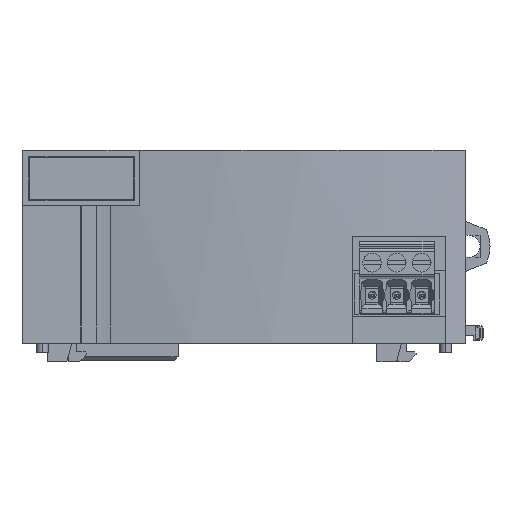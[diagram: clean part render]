
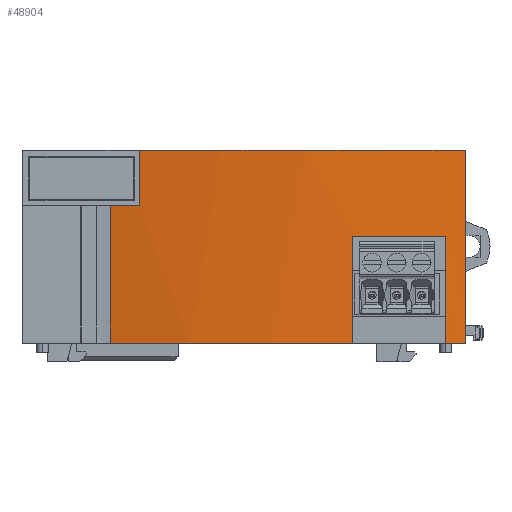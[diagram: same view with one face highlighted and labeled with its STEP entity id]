
A CAD part, left-side view. The second image highlights one B-rep face of the part: STEP entity #48904.
In plain terms, the highlighted cylindrical face has radius 200 mm (diameter 400 mm), a partial arc.
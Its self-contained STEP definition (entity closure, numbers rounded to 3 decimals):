
#436 = LINE ( 'NONE', #47520, #11084 ) ;
#1058 = CARTESIAN_POINT ( 'NONE',  ( -37.359, -22., 10.85 ) ) ;
#1172 = CIRCLE ( 'NONE', #41300, 200. ) ;
#1622 = CARTESIAN_POINT ( 'NONE',  ( -34.161, -45., 0. ) ) ;
#1956 = CARTESIAN_POINT ( 'NONE',  ( -34.161, -45., 39.2 ) ) ;
#2107 = VERTEX_POINT ( 'NONE', #1956 ) ;
#2536 = CIRCLE ( 'NONE', #54065, 200. ) ;
#2624 = CARTESIAN_POINT ( 'NONE',  ( -35.225, 27.202, 28. ) ) ;
#3890 = VERTEX_POINT ( 'NONE', #23554 ) ;
#4717 = DIRECTION ( 'NONE',  ( 0., 0., -1. ) ) ;
#4813 = ORIENTED_EDGE ( 'NONE', *, *, #42591, .F. ) ;
#9284 = VECTOR ( 'NONE', #48515, 1000. ) ;
#9701 = CARTESIAN_POINT ( 'NONE',  ( 162., -6., 0. ) ) ;
#10704 = LINE ( 'NONE', #34888, #9284 ) ;
#11084 = VECTOR ( 'NONE', #16047, 1000. ) ;
#13603 = ORIENTED_EDGE ( 'NONE', *, *, #39463, .F. ) ;
#13897 = DIRECTION ( 'NONE',  ( 0., 0., 1. ) ) ;
#14219 = DIRECTION ( 'NONE',  ( 1., 0., 0. ) ) ;
#14642 = EDGE_CURVE ( 'NONE', #27956, #2107, #2536, .T. ) ;
#15111 = ORIENTED_EDGE ( 'NONE', *, *, #16778, .F. ) ;
#15827 = EDGE_CURVE ( 'NONE', #17100, #40067, #45282, .T. ) ;
#16047 = DIRECTION ( 'NONE',  ( 0., 0., 1. ) ) ;
#16778 = EDGE_CURVE ( 'NONE', #17100, #3890, #36585, .T. ) ;
#17100 = VERTEX_POINT ( 'NONE', #38763 ) ;
#17414 = DIRECTION ( 'NONE',  ( 0., 0., 1. ) ) ;
#18182 = FACE_OUTER_BOUND ( 'NONE', #49593, .T. ) ;
#21191 = DIRECTION ( 'NONE',  ( 0., 0., 1. ) ) ;
#22585 = CIRCLE ( 'NONE', #34506, 200. ) ;
#22878 = CARTESIAN_POINT ( 'NONE',  ( 162., -6., 0. ) ) ;
#23057 = CYLINDRICAL_SURFACE ( 'NONE', #39236, 200. ) ;
#23554 = CARTESIAN_POINT ( 'NONE',  ( -35.225, 27.202, 0. ) ) ;
#24210 = DIRECTION ( 'NONE',  ( 0., 0., -1. ) ) ;
#24460 = DIRECTION ( 'NONE',  ( 0., 0., -1. ) ) ;
#24473 = ORIENTED_EDGE ( 'NONE', *, *, #42673, .F. ) ;
#27442 = ORIENTED_EDGE ( 'NONE', *, *, #44865, .F. ) ;
#27956 = VERTEX_POINT ( 'NONE', #36384 ) ;
#28668 = VERTEX_POINT ( 'NONE', #29204 ) ;
#29204 = CARTESIAN_POINT ( 'NONE',  ( -36.128, 21.3, 28. ) ) ;
#29310 = CIRCLE ( 'NONE', #32638, 200. ) ;
#31130 = VERTEX_POINT ( 'NONE', #49792 ) ;
#31663 = CARTESIAN_POINT ( 'NONE',  ( 162., -6., 21.7 ) ) ;
#32000 = VERTEX_POINT ( 'NONE', #2624 ) ;
#32638 = AXIS2_PLACEMENT_3D ( 'NONE', #51525, #24460, #56075 ) ;
#32762 = EDGE_CURVE ( 'NONE', #56938, #31130, #40734, .T. ) ;
#33225 = VECTOR ( 'NONE', #37109, 1000. ) ;
#34506 = AXIS2_PLACEMENT_3D ( 'NONE', #31663, #4717, #36196 ) ;
#34888 = CARTESIAN_POINT ( 'NONE',  ( -36.128, 21.3, 19.6 ) ) ;
#36073 = CARTESIAN_POINT ( 'NONE',  ( -34.914, -41., 21.7 ) ) ;
#36196 = DIRECTION ( 'NONE',  ( 1., 0., 0. ) ) ;
#36384 = CARTESIAN_POINT ( 'NONE',  ( -36.128, 21.3, 39.2 ) ) ;
#36585 = CIRCLE ( 'NONE', #42469, 200. ) ;
#36777 = CARTESIAN_POINT ( 'NONE',  ( -34.914, -41., 10.85 ) ) ;
#37070 = EDGE_CURVE ( 'NONE', #28668, #27956, #10704, .T. ) ;
#37109 = DIRECTION ( 'NONE',  ( 0., 0., 1. ) ) ;
#38433 = EDGE_CURVE ( 'NONE', #32000, #28668, #1172, .T. ) ;
#38763 = CARTESIAN_POINT ( 'NONE',  ( -37.359, -22., 0. ) ) ;
#39236 = AXIS2_PLACEMENT_3D ( 'NONE', #22878, #13897, #40993 ) ;
#39463 = EDGE_CURVE ( 'NONE', #55469, #31130, #29310, .T. ) ;
#40067 = VERTEX_POINT ( 'NONE', #56390 ) ;
#40615 = VECTOR ( 'NONE', #24210, 1000. ) ;
#40734 = LINE ( 'NONE', #36777, #51331 ) ;
#40993 = DIRECTION ( 'NONE',  ( 1., 0., 0. ) ) ;
#41120 = DIRECTION ( 'NONE',  ( 0., 0., -1. ) ) ;
#41143 = DIRECTION ( 'NONE',  ( 0., 0., -1. ) ) ;
#41300 = AXIS2_PLACEMENT_3D ( 'NONE', #44345, #17414, #48874 ) ;
#42469 = AXIS2_PLACEMENT_3D ( 'NONE', #9701, #41143, #14219 ) ;
#42591 = EDGE_CURVE ( 'NONE', #2107, #55469, #54055, .T. ) ;
#42673 = EDGE_CURVE ( 'NONE', #3890, #32000, #436, .T. ) ;
#43593 = ORIENTED_EDGE ( 'NONE', *, *, #15827, .T. ) ;
#44345 = CARTESIAN_POINT ( 'NONE',  ( 162., -6., 28. ) ) ;
#44865 = EDGE_CURVE ( 'NONE', #56938, #40067, #22585, .T. ) ;
#45282 = LINE ( 'NONE', #1058, #33225 ) ;
#45803 = ORIENTED_EDGE ( 'NONE', *, *, #38433, .F. ) ;
#46069 = ORIENTED_EDGE ( 'NONE', *, *, #37070, .F. ) ;
#47520 = CARTESIAN_POINT ( 'NONE',  ( -35.225, 27.202, 19.6 ) ) ;
#48058 = ORIENTED_EDGE ( 'NONE', *, *, #14642, .F. ) ;
#48235 = CARTESIAN_POINT ( 'NONE',  ( 162., -6., 39.2 ) ) ;
#48515 = DIRECTION ( 'NONE',  ( 0., 0., 1. ) ) ;
#48874 = DIRECTION ( 'NONE',  ( 1., 0., 0. ) ) ;
#48904 = ADVANCED_FACE ( 'NONE', ( #18182 ), #23057, .T. ) ;
#49593 = EDGE_LOOP ( 'NONE', ( #15111, #43593, #27442, #51872, #13603, #4813, #48058, #46069, #45803, #24473 ) ) ;
#49792 = CARTESIAN_POINT ( 'NONE',  ( -34.914, -41., 0. ) ) ;
#51331 = VECTOR ( 'NONE', #41120, 1000. ) ;
#51525 = CARTESIAN_POINT ( 'NONE',  ( 162., -6., 0. ) ) ;
#51872 = ORIENTED_EDGE ( 'NONE', *, *, #32762, .T. ) ;
#52764 = DIRECTION ( 'NONE',  ( 1., 0., 0. ) ) ;
#54055 = LINE ( 'NONE', #55800, #40615 ) ;
#54065 = AXIS2_PLACEMENT_3D ( 'NONE', #48235, #21191, #52764 ) ;
#55469 = VERTEX_POINT ( 'NONE', #1622 ) ;
#55800 = CARTESIAN_POINT ( 'NONE',  ( -34.161, -45., 19.6 ) ) ;
#56075 = DIRECTION ( 'NONE',  ( 1., 0., 0. ) ) ;
#56390 = CARTESIAN_POINT ( 'NONE',  ( -37.359, -22., 21.7 ) ) ;
#56938 = VERTEX_POINT ( 'NONE', #36073 ) ;
